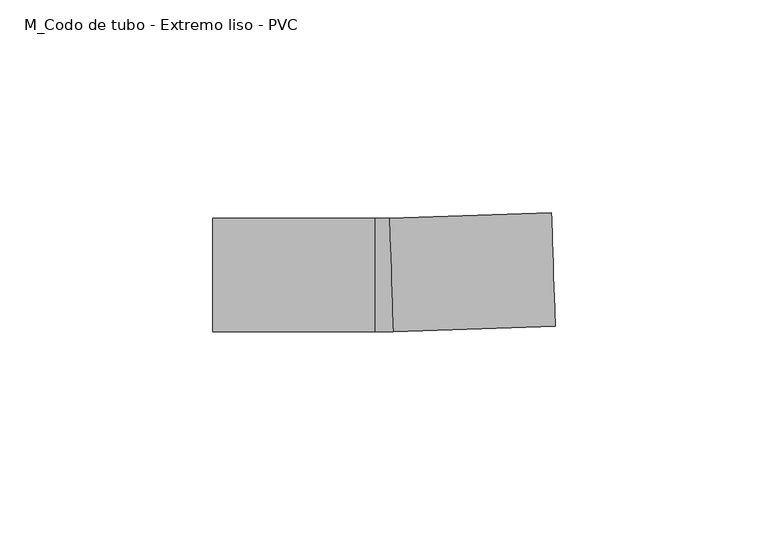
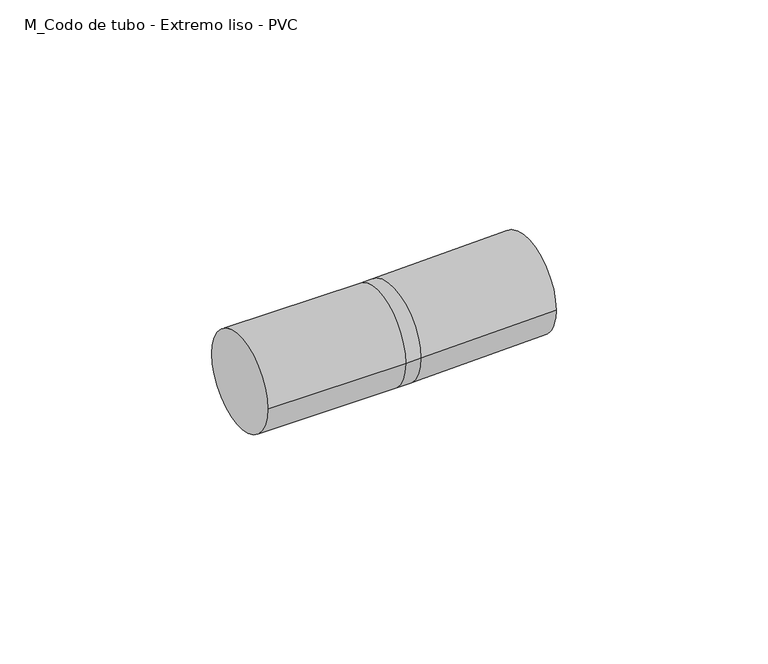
"""IFC4 building model written with IfcOpenShell, lengths in millimetres: cable carrier fitting geometry, M_Codo de tubo - Extremo liso - PVC : CODO ILUMINACION."""

from ifc_helpers import new_model, si_unit, point, frame, origin, place, context, project, spatial, circle_curve, ellipse_curve, trimmed, source, transform, mapped, element, save
from ifc_brep_helpers import plane_surface, cylinder_surface, revolved_surface, advanced_brep


def m_codo_de_tubo_extremo_liso_pvc_0d52a11c(model_context):
    return source(origin(), model_context, "Body", "AdvancedBrep", [
        advanced_brep(
        [(-40.0061886, -13.335, 0.0), (-40.0061886, 13.335, 0.0), (-1.9061886, -13.335, 0.0), (-1.9061886, 13.335, 0.0), (1.4604749, 13.3911461, 0.0), (2.3497822, -13.2640229, 0.0), (40.428595, -11.9935838, 0.0), (39.5392877, 14.6615851, 0.0)],
        [
            (0, 1, circle_curve(frame((-40.0061886, 0.0, 0.0), z_axis=(-1.0, 0.0, 0.0), x_axis=(0.0, 1.0, 0.0)), 13.335)),
            (1, 0, circle_curve(frame((-40.0061886, 0.0, 0.0), z_axis=(-1.0, 0.0, 0.0), x_axis=(0.0, 1.0, 0.0)), 13.335)),
            (0, 2),
            (2, 3, circle_curve(frame((-1.9061886, 0.0, 0.0), z_axis=(-1.0, 0.0, 0.0), x_axis=(0.0, 1.0, 0.0)), 13.335)),
            (3, 1),
            (3, 2, circle_curve(frame((-1.9061886, 0.0, 0.0), z_axis=(-1.0, 0.0, 0.0), x_axis=(0.0, 1.0, 0.0)), 13.335)),
            (4, 3, circle_curve(frame((-1.9061886, 114.3, 0.0), z_axis=(0.0, 0.0, -1.0), x_axis=(0.0, -1.0, 0.0)), 100.965)),
            (2, 5, circle_curve(frame((-1.9061886, 114.3, 0.0), z_axis=(0.0, 0.0, 1.0), x_axis=(0.0, -1.0, 0.0)), 127.635)),
            (5, 4, circle_curve(frame((1.9051286, 0.0635616, 0.0), z_axis=(-0.999443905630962, -0.033344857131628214, 0.0), x_axis=(-0.033344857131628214, 0.999443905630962, 0.0)), 13.335)),
            (4, 5, circle_curve(frame((1.9051286, 0.0635616, 0.0), z_axis=(-0.999443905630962, -0.03334485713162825, 0.0), x_axis=(-0.03334485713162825, 0.999443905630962, 0.0)), 13.335)),
            (6, 7, circle_curve(frame((39.9839414, 1.3340006, 0.0), z_axis=(0.9994439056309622, 0.03334485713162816, 0.0), x_axis=(-0.03334485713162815, 0.999443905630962, 0.0)), 13.335)),
            (7, 6, circle_curve(frame((39.9839414, 1.3340006, 0.0), z_axis=(0.9994439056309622, 0.03334485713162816, 0.0), x_axis=(-0.03334485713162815, 0.999443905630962, 0.0)), 13.335)),
            (5, 6),
            (7, 4),
        ],
        [
            plane_surface(frame((-40.0061886, 0.0, 0.0), z_axis=(-1.0, 0.0, 0.0), x_axis=(0.0, 0.0, 1.0))),
            cylinder_surface(frame((-40.0061886, 0.0, 0.0), z_axis=(-1.0, 0.0, 0.0), x_axis=(0.0, 1.0, 0.0)), 13.335),
            revolved_surface(trimmed(ellipse_curve(frame((-1.9061886, 0.0, 0.0), z_axis=(-1.0, 0.0, 0.0), x_axis=(0.0, 1.0, 0.0)), 13.335, 13.335), [point((-1.9061886, -13.335, 0.0))], [point((-1.9061886, 13.335, 0.0))], True, "CARTESIAN"), (-1.9061886, 114.3, 0.0), (0.0, 0.0, 1.0)),
            revolved_surface(trimmed(ellipse_curve(frame((-1.9061886, 0.0, 0.0), z_axis=(-1.0, 0.0, 0.0), x_axis=(0.0, 1.0, 0.0)), 13.335, 13.335), [point((-1.9061886, 13.335, 0.0))], [point((-1.9061886, -13.335, 0.0))], True, "CARTESIAN"), (-1.9061886, 114.3, 0.0), (0.0, 0.0, 1.0)),
            plane_surface(frame((39.9839414, 1.3340006, 0.0), z_axis=(0.9994439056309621, 0.03334485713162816, 0.0), x_axis=(0.0, 0.0, 1.0))),
            cylinder_surface(frame((1.9051286, 0.0635616, 0.0), z_axis=(-0.999443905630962, -0.03334485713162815, 0.0), x_axis=(-0.03334485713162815, 0.999443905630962, 0.0)), 13.335),
        ],
        [
            (0, [[1, 2]]),
            (1, [[-1, 3, 4, 5]]),
            (1, [[-2, -5, 6, -3]]),
            (2, [[7, -4, 8, 9]]),
            (3, [[-8, -6, -7, 10]]),
            (4, [[11, 12]]),
            (5, [[-9, 13, -12, 14]]),
            (5, [[-10, -14, -11, -13]]),
        ],
    ),
    ])


if __name__ == "__main__":
    model = new_model("IFC4")
    model_context = context("Model", 3, world=origin())
    ifc_project = project(units=[si_unit("LENGTHUNIT", "METRE", prefix="MILLI")], contexts=[model_context])
    site = spatial("IfcSite", under=ifc_project)
    building = spatial("IfcBuilding", under=site)
    placement = place(None, origin())
    m_codo_de_tubo_extremo_liso_pvc_shape = m_codo_de_tubo_extremo_liso_pvc_0d52a11c(model_context)
    element("IfcCableCarrierFitting", 1, ObjectType="M_Codo de tubo - Extremo liso - PVC : CODO ILUMINACION", at=placement, inside=building, context=model_context, shape_type="MappedRepresentation", body=[
        mapped(m_codo_de_tubo_extremo_liso_pvc_shape, transform((0.0, 0.0, 0.0), x_axis=(1.0, 0.0, 0.0), y_axis=(0.0, 1.0, 0.0), z_axis=(0.0, 0.0, 1.0))),
    ])
    save(model, "model.ifc")
